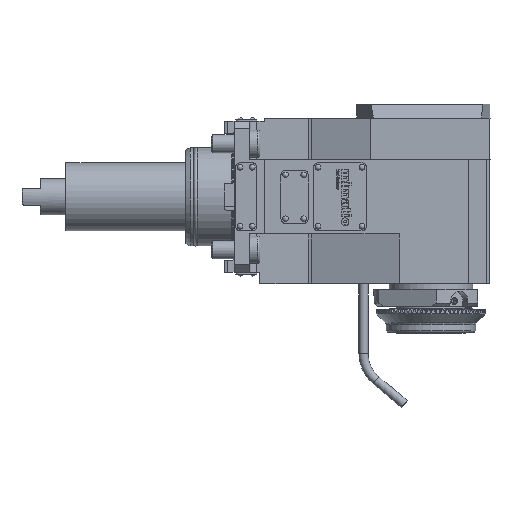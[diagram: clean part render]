
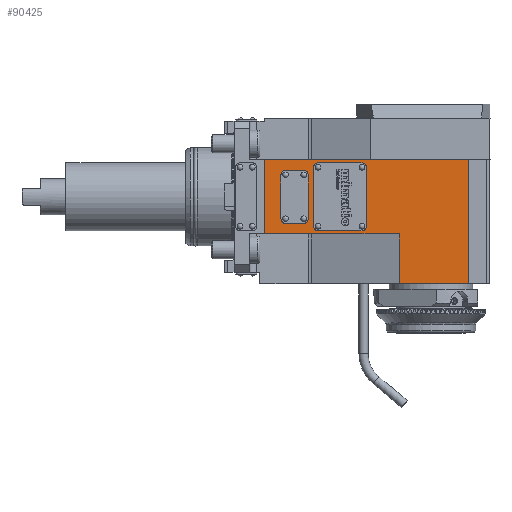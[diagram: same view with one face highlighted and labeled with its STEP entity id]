
A CAD part, front view. The second image highlights one B-rep face of the part: STEP entity #90425.
In plain terms, the highlighted planar face has unit normal (0, -1, 0).
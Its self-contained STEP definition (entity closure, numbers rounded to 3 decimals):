
#36367=PLANE('',#87277);
#37378=VECTOR('',#58918,1.);
#37400=VECTOR('',#58958,1.);
#37427=VECTOR('',#59005,1.);
#37429=VECTOR('',#59009,1.);
#37432=VECTOR('',#59020,1.);
#37433=VECTOR('',#59021,1.);
#37434=VECTOR('',#59022,1.);
#37435=VECTOR('',#59025,1.);
#37436=VECTOR('',#59028,1.);
#37437=VECTOR('',#59031,1.);
#37438=VECTOR('',#59034,1.);
#37439=VECTOR('',#59037,1.);
#37440=VECTOR('',#59040,1.);
#37441=VECTOR('',#59043,1.);
#39006=LINE('',#66481,#37378);
#39028=LINE('',#66529,#37400);
#39055=LINE('',#66593,#37427);
#39057=LINE('',#66596,#37429);
#39060=LINE('',#66603,#37432);
#39061=LINE('',#66604,#37433);
#39062=LINE('',#66607,#37434);
#39063=LINE('',#66611,#37435);
#39064=LINE('',#66615,#37436);
#39065=LINE('',#66619,#37437);
#39066=LINE('',#66623,#37438);
#39067=LINE('',#66627,#37439);
#39068=LINE('',#66631,#37440);
#39069=LINE('',#66635,#37441);
#41325=ORIENTED_EDGE('',*,*,#51723,.F.);
#41326=ORIENTED_EDGE('',*,*,#51785,.F.);
#41327=ORIENTED_EDGE('',*,*,#51748,.T.);
#41328=ORIENTED_EDGE('',*,*,#51782,.F.);
#41329=ORIENTED_EDGE('',*,*,#51780,.F.);
#41330=ORIENTED_EDGE('',*,*,#51786,.T.);
#41331=ORIENTED_EDGE('',*,*,#51787,.F.);
#41332=ORIENTED_EDGE('',*,*,#51788,.T.);
#41333=ORIENTED_EDGE('',*,*,#51789,.F.);
#41334=ORIENTED_EDGE('',*,*,#51790,.T.);
#41335=ORIENTED_EDGE('',*,*,#51791,.F.);
#41336=ORIENTED_EDGE('',*,*,#51792,.T.);
#41337=ORIENTED_EDGE('',*,*,#51793,.F.);
#41338=ORIENTED_EDGE('',*,*,#51794,.T.);
#41339=ORIENTED_EDGE('',*,*,#51795,.T.);
#41340=ORIENTED_EDGE('',*,*,#51796,.T.);
#41341=ORIENTED_EDGE('',*,*,#51797,.T.);
#41342=ORIENTED_EDGE('',*,*,#51798,.T.);
#41343=ORIENTED_EDGE('',*,*,#51799,.T.);
#41344=ORIENTED_EDGE('',*,*,#51800,.T.);
#41345=ORIENTED_EDGE('',*,*,#51801,.T.);
#41346=ORIENTED_EDGE('',*,*,#51802,.T.);
#48213=CIRCLE('',#87278,3.);
#48214=CIRCLE('',#87279,3.);
#48215=CIRCLE('',#87280,3.);
#48216=CIRCLE('',#87281,3.);
#48217=CIRCLE('',#87282,3.);
#48218=CIRCLE('',#87283,3.);
#48219=CIRCLE('',#87284,3.);
#48220=CIRCLE('',#87285,3.);
#49305=VERTEX_POINT('',#66478);
#49306=VERTEX_POINT('',#66480);
#49322=VERTEX_POINT('',#66526);
#49323=VERTEX_POINT('',#66528);
#49340=VERTEX_POINT('',#66571);
#49350=VERTEX_POINT('',#66591);
#49351=VERTEX_POINT('',#66605);
#49352=VERTEX_POINT('',#66606);
#49353=VERTEX_POINT('',#66608);
#49354=VERTEX_POINT('',#66610);
#49355=VERTEX_POINT('',#66612);
#49356=VERTEX_POINT('',#66614);
#49357=VERTEX_POINT('',#66616);
#49358=VERTEX_POINT('',#66618);
#49359=VERTEX_POINT('',#66621);
#49360=VERTEX_POINT('',#66622);
#49361=VERTEX_POINT('',#66624);
#49362=VERTEX_POINT('',#66626);
#49363=VERTEX_POINT('',#66628);
#49364=VERTEX_POINT('',#66630);
#49365=VERTEX_POINT('',#66632);
#49366=VERTEX_POINT('',#66634);
#51723=EDGE_CURVE('',#49305,#49306,#39006,.T.);
#51748=EDGE_CURVE('',#49323,#49322,#39028,.T.);
#51780=EDGE_CURVE('',#49350,#49340,#39055,.T.);
#51782=EDGE_CURVE('',#49340,#49322,#39057,.T.);
#51785=EDGE_CURVE('',#49323,#49305,#39060,.T.);
#51786=EDGE_CURVE('',#49350,#49306,#39061,.T.);
#51787=EDGE_CURVE('',#49351,#49352,#39062,.T.);
#51788=EDGE_CURVE('',#49351,#49353,#48213,.T.);
#51789=EDGE_CURVE('',#49354,#49353,#39063,.T.);
#51790=EDGE_CURVE('',#49354,#49355,#48214,.T.);
#51791=EDGE_CURVE('',#49356,#49355,#39064,.T.);
#51792=EDGE_CURVE('',#49356,#49357,#48215,.T.);
#51793=EDGE_CURVE('',#49358,#49357,#39065,.T.);
#51794=EDGE_CURVE('',#49358,#49352,#48216,.T.);
#51795=EDGE_CURVE('',#49359,#49360,#39066,.T.);
#51796=EDGE_CURVE('',#49360,#49361,#48217,.T.);
#51797=EDGE_CURVE('',#49361,#49362,#39067,.T.);
#51798=EDGE_CURVE('',#49362,#49363,#48218,.T.);
#51799=EDGE_CURVE('',#49363,#49364,#39068,.T.);
#51800=EDGE_CURVE('',#49364,#49365,#48219,.T.);
#51801=EDGE_CURVE('',#49365,#49366,#39069,.T.);
#51802=EDGE_CURVE('',#49366,#49359,#48220,.T.);
#55210=EDGE_LOOP('',(#41325,#41326,#41327,#41328,#41329,#41330));
#55211=EDGE_LOOP('',(#41331,#41332,#41333,#41334,#41335,#41336,#41337,#41338));
#55212=EDGE_LOOP('',(#41339,#41340,#41341,#41342,#41343,#41344,#41345,#41346));
#56970=FACE_BOUND('',#55210,.T.);
#56971=FACE_BOUND('',#55211,.T.);
#56972=FACE_BOUND('',#55212,.T.);
#58918=DIRECTION('',(-89.071,0.,0.));
#58958=DIRECTION('',(45.929,0.,0.));
#59005=DIRECTION('',(135.,0.,0.));
#59009=DIRECTION('',(0.,0.,-82.));
#59018=DIRECTION('',(0.,-1.,0.));
#59019=DIRECTION('',(-1.,0.,0.));
#59020=DIRECTION('',(0.,0.,33.));
#59021=DIRECTION('',(0.,0.,-49.));
#59022=DIRECTION('',(29.,0.,0.));
#59023=DIRECTION('',(0.,1.,0.));
#59024=DIRECTION('',(-3.,0.,0.));
#59025=DIRECTION('',(0.,0.,-39.));
#59026=DIRECTION('',(0.,1.,0.));
#59027=DIRECTION('',(-3.,0.,0.));
#59028=DIRECTION('',(-29.,0.,0.));
#59029=DIRECTION('',(0.,1.,0.));
#59030=DIRECTION('',(-3.,0.,0.));
#59031=DIRECTION('',(0.,0.,39.));
#59032=DIRECTION('',(0.,1.,0.));
#59033=DIRECTION('',(-3.,0.,0.));
#59034=DIRECTION('',(0.,0.,29.));
#59035=DIRECTION('',(0.,1.,0.));
#59036=DIRECTION('',(-3.,0.,0.));
#59037=DIRECTION('',(12.,0.,0.));
#59038=DIRECTION('',(0.,1.,0.));
#59039=DIRECTION('',(0.,0.,3.));
#59040=DIRECTION('',(0.,0.,-29.));
#59041=DIRECTION('',(0.,1.,0.));
#59042=DIRECTION('',(3.,0.,0.));
#59043=DIRECTION('',(-12.,0.,0.));
#59044=DIRECTION('',(0.,1.,0.));
#59045=DIRECTION('',(0.,0.,-3.));
#66478=CARTESIAN_POINT('',(109.071,-43.,-24.5));
#66480=CARTESIAN_POINT('',(20.,-43.,-24.5));
#66481=CARTESIAN_POINT('',(109.071,-43.,-24.5));
#66526=CARTESIAN_POINT('',(155.,-43.,-57.5));
#66528=CARTESIAN_POINT('',(109.071,-43.,-57.5));
#66529=CARTESIAN_POINT('',(109.071,-43.,-57.5));
#66571=CARTESIAN_POINT('',(155.,-43.,24.5));
#66591=CARTESIAN_POINT('',(20.,-43.,24.5));
#66593=CARTESIAN_POINT('',(20.,-43.,24.5));
#66596=CARTESIAN_POINT('',(155.,-43.,24.5));
#66602=CARTESIAN_POINT('',(109.071,-43.,-24.5));
#66603=CARTESIAN_POINT('',(109.071,-43.,-57.5));
#66604=CARTESIAN_POINT('',(20.,-43.,24.5));
#66605=CARTESIAN_POINT('',(55.5,-43.,-22.5));
#66606=CARTESIAN_POINT('',(84.5,-43.,-22.5));
#66607=CARTESIAN_POINT('',(55.5,-43.,-22.5));
#66608=CARTESIAN_POINT('',(52.5,-43.,-19.5));
#66609=CARTESIAN_POINT('',(55.5,-43.,-19.5));
#66610=CARTESIAN_POINT('',(52.5,-43.,19.5));
#66611=CARTESIAN_POINT('',(52.5,-43.,19.5));
#66612=CARTESIAN_POINT('',(55.5,-43.,22.5));
#66613=CARTESIAN_POINT('',(55.5,-43.,19.5));
#66614=CARTESIAN_POINT('',(84.5,-43.,22.5));
#66615=CARTESIAN_POINT('',(84.5,-43.,22.5));
#66616=CARTESIAN_POINT('',(87.5,-43.,19.5));
#66617=CARTESIAN_POINT('',(84.5,-43.,19.5));
#66618=CARTESIAN_POINT('',(87.5,-43.,-19.5));
#66619=CARTESIAN_POINT('',(87.5,-43.,-19.5));
#66620=CARTESIAN_POINT('',(84.5,-43.,-19.5));
#66621=CARTESIAN_POINT('',(31.,-43.,-14.5));
#66622=CARTESIAN_POINT('',(31.,-43.,14.5));
#66623=CARTESIAN_POINT('',(31.,-43.,-14.5));
#66624=CARTESIAN_POINT('',(34.,-43.,17.5));
#66625=CARTESIAN_POINT('',(34.,-43.,14.5));
#66626=CARTESIAN_POINT('',(46.,-43.,17.5));
#66627=CARTESIAN_POINT('',(34.,-43.,17.5));
#66628=CARTESIAN_POINT('',(49.,-43.,14.5));
#66629=CARTESIAN_POINT('',(46.,-43.,14.5));
#66630=CARTESIAN_POINT('',(49.,-43.,-14.5));
#66631=CARTESIAN_POINT('',(49.,-43.,14.5));
#66632=CARTESIAN_POINT('',(46.,-43.,-17.5));
#66633=CARTESIAN_POINT('',(46.,-43.,-14.5));
#66634=CARTESIAN_POINT('',(34.,-43.,-17.5));
#66635=CARTESIAN_POINT('',(46.,-43.,-17.5));
#66636=CARTESIAN_POINT('',(34.,-43.,-14.5));
#87277=AXIS2_PLACEMENT_3D('',#66602,#59018,#59019);
#87278=AXIS2_PLACEMENT_3D('',#66609,#59023,#59024);
#87279=AXIS2_PLACEMENT_3D('',#66613,#59026,#59027);
#87280=AXIS2_PLACEMENT_3D('',#66617,#59029,#59030);
#87281=AXIS2_PLACEMENT_3D('',#66620,#59032,#59033);
#87282=AXIS2_PLACEMENT_3D('',#66625,#59035,#59036);
#87283=AXIS2_PLACEMENT_3D('',#66629,#59038,#59039);
#87284=AXIS2_PLACEMENT_3D('',#66633,#59041,#59042);
#87285=AXIS2_PLACEMENT_3D('',#66636,#59044,#59045);
#90425=ADVANCED_FACE('',(#56970,#56971,#56972),#36367,.T.);
